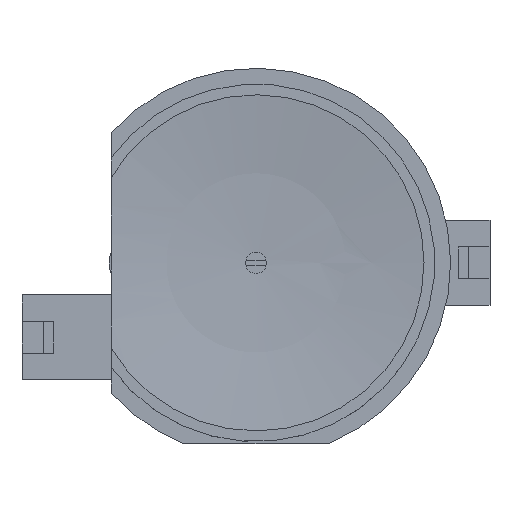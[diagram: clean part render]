
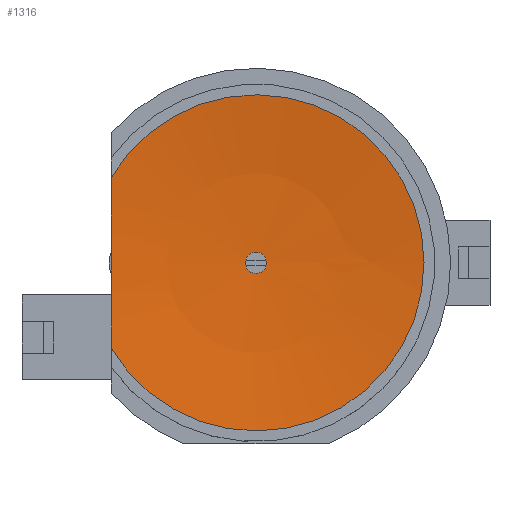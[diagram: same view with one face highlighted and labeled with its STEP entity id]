
A CAD part, top view. The second image highlights one B-rep face of the part: STEP entity #1316.
In plain terms, the highlighted spherical face has radius 125.3 mm.
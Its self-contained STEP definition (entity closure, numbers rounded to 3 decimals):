
#179 = PLANE('',#180);
#180 = AXIS2_PLACEMENT_3D('',#181,#182,#183);
#181 = CARTESIAN_POINT('',(-13.6,-93.,-1.5));
#182 = DIRECTION('',(1.,0.,0.));
#183 = DIRECTION('',(0.,0.,1.));
#706 = VERTEX_POINT('',#707);
#707 = CARTESIAN_POINT('',(-13.6,-34.96,12.4));
#721 = PLANE('',#722);
#722 = AXIS2_PLACEMENT_3D('',#723,#724,#725);
#723 = CARTESIAN_POINT('',(0.,-43.,12.4));
#724 = DIRECTION('',(0.,0.,1.));
#725 = DIRECTION('',(1.,0.,-0.));
#733 = EDGE_CURVE('',#734,#706,#736,.T.);
#734 = VERTEX_POINT('',#735);
#735 = CARTESIAN_POINT('',(-13.6,-51.04,12.4));
#736 = SURFACE_CURVE('',#737,(#742,#749),.PCURVE_S1.);
#737 = CIRCLE('',#738,124.56);
#738 = AXIS2_PLACEMENT_3D('',#739,#740,#741);
#739 = CARTESIAN_POINT('',(-13.6,-43.,136.7));
#740 = DIRECTION('',(1.,0.,0.));
#741 = DIRECTION('',(-0.,0.,1.));
#742 = PCURVE('',#179,#743);
#743 = DEFINITIONAL_REPRESENTATION('',(#744),#748);
#744 = CIRCLE('',#745,124.56);
#745 = AXIS2_PLACEMENT_2D('',#746,#747);
#746 = CARTESIAN_POINT('',(138.2,-50.));
#747 = DIRECTION('',(1.,0.));
#748 = ( GEOMETRIC_REPRESENTATION_CONTEXT(2) 
PARAMETRIC_REPRESENTATION_CONTEXT() REPRESENTATION_CONTEXT('2D SPACE',''
  ) );
#749 = PCURVE('',#750,#755);
#750 = SPHERICAL_SURFACE('',#751,125.3);
#751 = AXIS2_PLACEMENT_3D('',#752,#753,#754);
#752 = CARTESIAN_POINT('',(0.,-43.,136.7));
#753 = DIRECTION('',(0.,0.,1.));
#754 = DIRECTION('',(1.,0.,0.));
#755 = DEFINITIONAL_REPRESENTATION('',(#756),#787);
#756 = B_SPLINE_CURVE_WITH_KNOTS('',8,(#757,#758,#759,#760,#761,#762,
    #763,#764,#765,#766,#767,#768,#769,#770,#771,#772,#773,#774,#775,
    #776,#777,#778,#779,#780,#781,#782,#783,#784,#785,#786),
  .UNSPECIFIED.,.F.,.F.,(9,7,7,7,9),(3.077,3.109,
    3.134,3.17,3.206),.UNSPECIFIED.);
#757 = CARTESIAN_POINT('',(3.675,-1.444));
#758 = CARTESIAN_POINT('',(3.648,-1.446));
#759 = CARTESIAN_POINT('',(3.62,-1.448));
#760 = CARTESIAN_POINT('',(3.59,-1.45));
#761 = CARTESIAN_POINT('',(3.56,-1.452));
#762 = CARTESIAN_POINT('',(3.529,-1.453));
#763 = CARTESIAN_POINT('',(3.496,-1.455));
#764 = CARTESIAN_POINT('',(3.463,-1.456));
#765 = CARTESIAN_POINT('',(3.404,-1.458));
#766 = CARTESIAN_POINT('',(3.378,-1.459));
#767 = CARTESIAN_POINT('',(3.351,-1.46));
#768 = CARTESIAN_POINT('',(3.325,-1.46));
#769 = CARTESIAN_POINT('',(3.298,-1.461));
#770 = CARTESIAN_POINT('',(3.27,-1.461));
#771 = CARTESIAN_POINT('',(3.243,-1.462));
#772 = CARTESIAN_POINT('',(3.174,-1.462));
#773 = CARTESIAN_POINT('',(3.132,-1.462));
#774 = CARTESIAN_POINT('',(3.091,-1.462));
#775 = CARTESIAN_POINT('',(3.049,-1.462));
#776 = CARTESIAN_POINT('',(3.008,-1.461));
#777 = CARTESIAN_POINT('',(2.967,-1.461));
#778 = CARTESIAN_POINT('',(2.927,-1.46));
#779 = CARTESIAN_POINT('',(2.849,-1.457));
#780 = CARTESIAN_POINT('',(2.811,-1.456));
#781 = CARTESIAN_POINT('',(2.774,-1.454));
#782 = CARTESIAN_POINT('',(2.738,-1.453));
#783 = CARTESIAN_POINT('',(2.704,-1.451));
#784 = CARTESIAN_POINT('',(2.67,-1.449));
#785 = CARTESIAN_POINT('',(2.638,-1.447));
#786 = CARTESIAN_POINT('',(2.608,-1.444));
#787 = ( GEOMETRIC_REPRESENTATION_CONTEXT(2) 
PARAMETRIC_REPRESENTATION_CONTEXT() REPRESENTATION_CONTEXT('2D SPACE',''
  ) );
#1271 = EDGE_CURVE('',#1272,#706,#1274,.T.);
#1272 = VERTEX_POINT('',#1273);
#1273 = CARTESIAN_POINT('',(15.799,-43.,12.4));
#1274 = SURFACE_CURVE('',#1275,(#1280,#1287),.PCURVE_S1.);
#1275 = CIRCLE('',#1276,15.799);
#1276 = AXIS2_PLACEMENT_3D('',#1277,#1278,#1279);
#1277 = CARTESIAN_POINT('',(0.,-43.,12.4));
#1278 = DIRECTION('',(0.,0.,1.));
#1279 = DIRECTION('',(1.,0.,-0.));
#1280 = PCURVE('',#721,#1281);
#1281 = DEFINITIONAL_REPRESENTATION('',(#1282),#1286);
#1282 = CIRCLE('',#1283,15.799);
#1283 = AXIS2_PLACEMENT_2D('',#1284,#1285);
#1284 = CARTESIAN_POINT('',(0.,0.));
#1285 = DIRECTION('',(1.,0.));
#1286 = ( GEOMETRIC_REPRESENTATION_CONTEXT(2) 
PARAMETRIC_REPRESENTATION_CONTEXT() REPRESENTATION_CONTEXT('2D SPACE',''
  ) );
#1287 = PCURVE('',#750,#1288);
#1288 = DEFINITIONAL_REPRESENTATION('',(#1289),#1293);
#1289 = LINE('',#1290,#1291);
#1290 = CARTESIAN_POINT('',(0.,-1.444));
#1291 = VECTOR('',#1292,1.);
#1292 = DIRECTION('',(1.,0.));
#1293 = ( GEOMETRIC_REPRESENTATION_CONTEXT(2) 
PARAMETRIC_REPRESENTATION_CONTEXT() REPRESENTATION_CONTEXT('2D SPACE',''
  ) );
#1295 = EDGE_CURVE('',#734,#1272,#1296,.T.);
#1296 = SURFACE_CURVE('',#1297,(#1302,#1309),.PCURVE_S1.);
#1297 = CIRCLE('',#1298,15.799);
#1298 = AXIS2_PLACEMENT_3D('',#1299,#1300,#1301);
#1299 = CARTESIAN_POINT('',(0.,-43.,12.4));
#1300 = DIRECTION('',(0.,0.,1.));
#1301 = DIRECTION('',(1.,0.,-0.));
#1302 = PCURVE('',#721,#1303);
#1303 = DEFINITIONAL_REPRESENTATION('',(#1304),#1308);
#1304 = CIRCLE('',#1305,15.799);
#1305 = AXIS2_PLACEMENT_2D('',#1306,#1307);
#1306 = CARTESIAN_POINT('',(0.,0.));
#1307 = DIRECTION('',(1.,0.));
#1308 = ( GEOMETRIC_REPRESENTATION_CONTEXT(2) 
PARAMETRIC_REPRESENTATION_CONTEXT() REPRESENTATION_CONTEXT('2D SPACE',''
  ) );
#1309 = PCURVE('',#750,#1310);
#1310 = DEFINITIONAL_REPRESENTATION('',(#1311),#1315);
#1311 = LINE('',#1312,#1313);
#1312 = CARTESIAN_POINT('',(0.,-1.444));
#1313 = VECTOR('',#1314,1.);
#1314 = DIRECTION('',(1.,0.));
#1315 = ( GEOMETRIC_REPRESENTATION_CONTEXT(2) 
PARAMETRIC_REPRESENTATION_CONTEXT() REPRESENTATION_CONTEXT('2D SPACE',''
  ) );
#1316 = ADVANCED_FACE('',(#1317),#750,.F.);
#1317 = FACE_BOUND('',#1318,.F.);
#1318 = EDGE_LOOP('',(#1319,#1343,#1344,#1345,#1346,#1347));
#1319 = ORIENTED_EDGE('',*,*,#1320,.T.);
#1320 = EDGE_CURVE('',#1321,#1272,#1323,.T.);
#1321 = VERTEX_POINT('',#1322);
#1322 = CARTESIAN_POINT('',(1.,-43.,11.404));
#1323 = SEAM_CURVE('',#1324,(#1329,#1336),.PCURVE_S1.);
#1324 = CIRCLE('',#1325,125.3);
#1325 = AXIS2_PLACEMENT_3D('',#1326,#1327,#1328);
#1326 = CARTESIAN_POINT('',(0.,-43.,136.7));
#1327 = DIRECTION('',(0.,-1.,0.));
#1328 = DIRECTION('',(1.,0.,0.));
#1329 = PCURVE('',#750,#1330);
#1330 = DEFINITIONAL_REPRESENTATION('',(#1331),#1335);
#1331 = LINE('',#1332,#1333);
#1332 = CARTESIAN_POINT('',(6.283,-6.283));
#1333 = VECTOR('',#1334,1.);
#1334 = DIRECTION('',(0.,1.));
#1335 = ( GEOMETRIC_REPRESENTATION_CONTEXT(2) 
PARAMETRIC_REPRESENTATION_CONTEXT() REPRESENTATION_CONTEXT('2D SPACE',''
  ) );
#1336 = PCURVE('',#750,#1337);
#1337 = DEFINITIONAL_REPRESENTATION('',(#1338),#1342);
#1338 = LINE('',#1339,#1340);
#1339 = CARTESIAN_POINT('',(0.,-6.283));
#1340 = VECTOR('',#1341,1.);
#1341 = DIRECTION('',(0.,1.));
#1342 = ( GEOMETRIC_REPRESENTATION_CONTEXT(2) 
PARAMETRIC_REPRESENTATION_CONTEXT() REPRESENTATION_CONTEXT('2D SPACE',''
  ) );
#1343 = ORIENTED_EDGE('',*,*,#1295,.F.);
#1344 = ORIENTED_EDGE('',*,*,#733,.T.);
#1345 = ORIENTED_EDGE('',*,*,#1271,.F.);
#1346 = ORIENTED_EDGE('',*,*,#1320,.F.);
#1347 = ORIENTED_EDGE('',*,*,#1348,.F.);
#1348 = EDGE_CURVE('',#1321,#1321,#1349,.T.);
#1349 = SURFACE_CURVE('',#1350,(#1355,#1362),.PCURVE_S1.);
#1350 = CIRCLE('',#1351,1.);
#1351 = AXIS2_PLACEMENT_3D('',#1352,#1353,#1354);
#1352 = CARTESIAN_POINT('',(0.,-43.,11.404));
#1353 = DIRECTION('',(0.,-0.,-1.));
#1354 = DIRECTION('',(0.,1.,-0.));
#1355 = PCURVE('',#750,#1356);
#1356 = DEFINITIONAL_REPRESENTATION('',(#1357),#1361);
#1357 = LINE('',#1358,#1359);
#1358 = CARTESIAN_POINT('',(7.854,-1.563));
#1359 = VECTOR('',#1360,1.);
#1360 = DIRECTION('',(-1.,0.));
#1361 = ( GEOMETRIC_REPRESENTATION_CONTEXT(2) 
PARAMETRIC_REPRESENTATION_CONTEXT() REPRESENTATION_CONTEXT('2D SPACE',''
  ) );
#1362 = PCURVE('',#1363,#1368);
#1363 = CYLINDRICAL_SURFACE('',#1364,1.);
#1364 = AXIS2_PLACEMENT_3D('',#1365,#1366,#1367);
#1365 = CARTESIAN_POINT('',(0.,-43.,8.));
#1366 = DIRECTION('',(-0.,-0.,-1.));
#1367 = DIRECTION('',(1.,0.,0.));
#1368 = DEFINITIONAL_REPRESENTATION('',(#1369),#1373);
#1369 = LINE('',#1370,#1371);
#1370 = CARTESIAN_POINT('',(-7.854,-3.404));
#1371 = VECTOR('',#1372,1.);
#1372 = DIRECTION('',(1.,-0.));
#1373 = ( GEOMETRIC_REPRESENTATION_CONTEXT(2) 
PARAMETRIC_REPRESENTATION_CONTEXT() REPRESENTATION_CONTEXT('2D SPACE',''
  ) );
